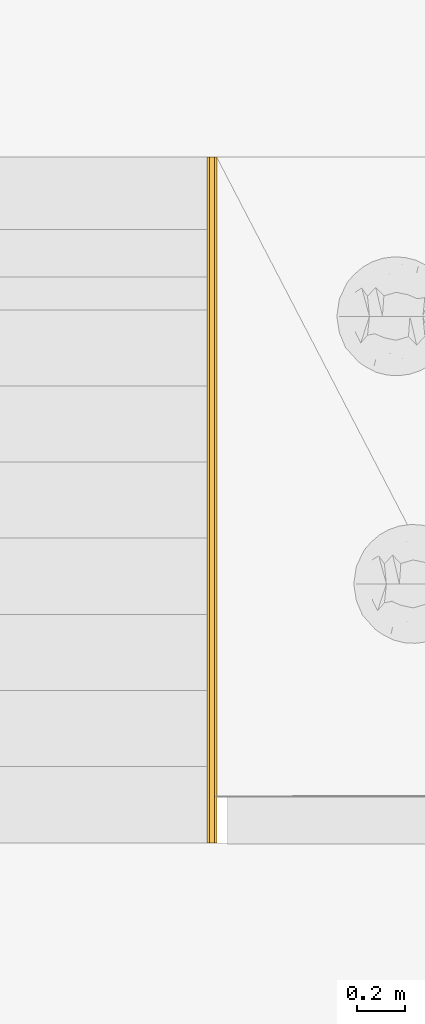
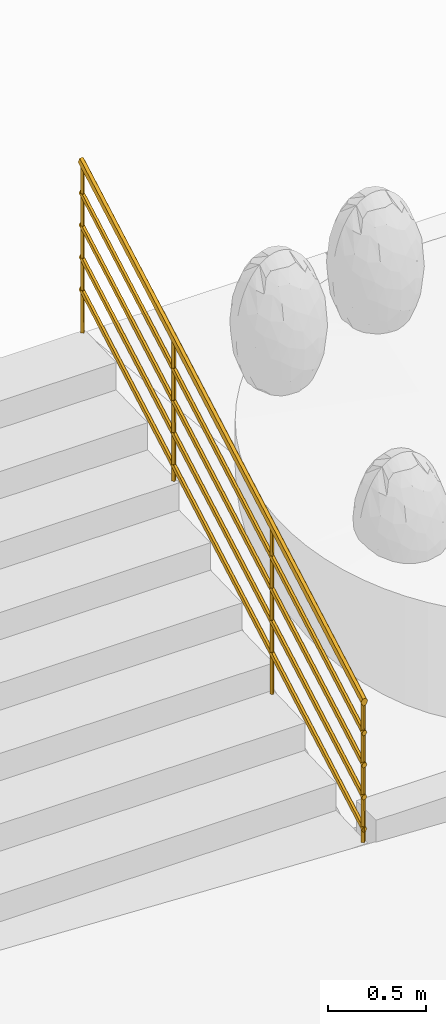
# One storey, part 19 of 23: 1 railing.
"""IFC2X3 building model written with IfcOpenShell, lengths in metres."""

from ifc_helpers import new_model, entity, si_unit, converted_unit, direction, frame, origin, place, context, subcontext, project, spatial, faceted_brep, material, material_list, type_object, element, save


model = new_model("IFC2X3")

# Units and contexts
model_context = context("Model", 3, precision=1e-05, world=origin(), true_north=direction((0.7716245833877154, 0.6360782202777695)))
body_context = subcontext(model_context, "Body", "Model", "MODEL_VIEW")
ifc_project = project(units=[si_unit("LENGTHUNIT", "METRE"), converted_unit("PLANEANGLEUNIT", "DEGREE", entity("IfcPlaneAngleMeasure", 0.017453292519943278), si_unit("PLANEANGLEUNIT", "RADIAN"), dimensions=[0, 0, 0, 0, 0, 0, 0]), si_unit("AREAUNIT", "SQUARE_METRE")], contexts=[model_context])

# Site, building, storey
site_placement = place(None, origin())
site = spatial("IfcSite", under=ifc_project, at=site_placement, Name="Default", CompositionType="ELEMENT")
building_placement = place(site_placement, origin())
building = spatial("IfcBuilding", under=site, at=building_placement, Name="<Building Name>", CompositionType="ELEMENT")
storey_placement = place(building_placement, origin())
storey = spatial("IfcBuildingStorey", under=building, at=storey_placement, Name="00 - HAV", CompositionType="ELEMENT", Elevation=0.0)

# Railing
ifc_material_1 = material(Name="A_Finish_Metal_Steel_Brushed")
ifc_material_2 = material(Name="Lys")
ifc_material_list = material_list([ifc_material_1, ifc_material_2])
railing_type = type_object("IfcRailingType", Name="Railing:900mm Pipe", PredefinedType="NOTDEFINED")
railing_placement = place(storey_placement, frame((247.96155707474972, 46.70337881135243, 31.679294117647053)))
element("IfcRailing", 1, at=railing_placement, inside=storey, type_object=railing_type, material=ifc_material_list, Name="Railing:900mm Pipe", ObjectType="Railing:900mm Pipe", PredefinedType="NOTDEFINED", context=body_context, shape_type="Brep", body=[
    faceted_brep([(0.034095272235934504, 1.942400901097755, 1.0757647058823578), (0.024376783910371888, 1.9545875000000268, 1.953518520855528), (0.034095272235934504, 1.942400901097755, 1.9466904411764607), (0.021595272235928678, 1.954900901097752, 1.0757647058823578), (0.009095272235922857, 1.942400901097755, 1.0757647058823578), (0.009095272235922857, 1.942400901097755, 1.9466904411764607), (0.01881376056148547, 1.9302143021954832, 1.9398623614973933), (0.021595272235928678, 1.9299009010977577, 1.0757647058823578)], [[[0, 1, 2]], [[1, 0, 3]], [[3, 4, 5]], [[3, 5, 1]], [[5, 4, 6]], [[6, 4, 7]], [[7, 0, 2]], [[7, 2, 6]], [[2, 1, 5, 6]], [[3, 0, 7, 4]]]),
    faceted_brep([(0.034095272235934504, 0.942400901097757, 0.3585882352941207), (0.024376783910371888, 0.9545875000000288, 1.3932244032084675), (0.034095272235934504, 0.942400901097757, 1.3863963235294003), (0.021595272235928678, 0.9549009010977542, 0.3585882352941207), (0.009095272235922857, 0.942400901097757, 0.3585882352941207), (0.009095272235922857, 0.942400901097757, 1.3863963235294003), (0.01881376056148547, 0.9302143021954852, 1.379568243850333), (0.021595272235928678, 0.9299009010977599, 0.3585882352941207)], [[[0, 1, 2]], [[1, 0, 3]], [[3, 4, 5]], [[3, 5, 1]], [[5, 4, 6]], [[6, 4, 7]], [[7, 0, 2]], [[7, 2, 6]], [[2, 1, 5, 6]], [[3, 0, 7, 4]]]),
    faceted_brep([(0.034095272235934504, 2.8707143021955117, 1.4343529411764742), (0.024376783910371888, 2.8829009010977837, 2.473647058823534), (0.034095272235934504, 2.8707143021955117, 2.466818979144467), (0.021595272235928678, 2.8832143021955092, 1.4343529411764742), (0.009095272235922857, 2.8707143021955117, 1.4343529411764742), (0.009095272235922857, 2.8707143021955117, 2.466818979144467), (0.01881376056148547, 2.85852770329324, 2.4599908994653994), (0.021595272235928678, 2.8582143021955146, 1.4343529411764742)], [[[0, 1, 2]], [[1, 0, 3]], [[3, 4, 5]], [[3, 5, 1]], [[5, 4, 6]], [[6, 4, 7]], [[7, 0, 2]], [[7, 2, 6]], [[2, 1, 5, 6]], [[3, 0, 7, 4]]]),
    faceted_brep([(0.034095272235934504, 0.014087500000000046, 0.0), (0.024376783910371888, 0.02627409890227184, 0.8730958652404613), (0.034095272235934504, 0.014087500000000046, 0.866267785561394), (0.021595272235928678, 0.026587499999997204, 0.0), (0.009095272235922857, 0.014087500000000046, 0.0), (0.009095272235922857, 0.014087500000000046, 0.866267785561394), (0.01881376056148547, 0.0019009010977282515, 0.8594397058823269), (0.021595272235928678, 0.0015875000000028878, 0.0)], [[[0, 1, 2]], [[1, 0, 3]], [[3, 4, 5]], [[3, 5, 1]], [[5, 4, 6]], [[6, 4, 7]], [[7, 0, 2]], [[7, 2, 6]], [[2, 1, 5, 6]], [[3, 0, 7, 4]]]),
    faceted_brep([(0.034095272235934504, 0.0019009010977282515, 0.8616238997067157), (0.036595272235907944, 0.0019009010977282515, 0.8665873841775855), (0.03909527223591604, 0.0019009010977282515, 0.8715508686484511), (0.04159527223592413, 0.0019009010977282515, 0.876514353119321), (0.03908193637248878, 0.0019009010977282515, 0.881504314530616), (0.03656860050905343, 0.0019009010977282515, 0.8864942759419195), (0.03408193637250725, 0.0019009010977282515, 0.89143128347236), (0.031595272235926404, 0.0019009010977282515, 0.8963682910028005), (0.026595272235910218, 0.0019009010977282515, 0.8963682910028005), (0.021595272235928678, 0.0019009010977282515, 0.8963682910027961), (0.01659527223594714, 0.0019009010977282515, 0.8963682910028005), (0.011595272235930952, 0.0019009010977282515, 0.8963682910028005), (0.009095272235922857, 0.0019009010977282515, 0.8914048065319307), (0.006595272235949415, 0.0019009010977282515, 0.8864413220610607), (0.004108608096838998, 0.0019009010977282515, 0.8815043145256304), (0.0015952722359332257, 0.0019009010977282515, 0.876514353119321), (0.004108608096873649, 0.0019009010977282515, 0.8715243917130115), (0.006595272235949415, 0.0019009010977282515, 0.8665873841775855), (0.009095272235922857, 0.0019009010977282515, 0.8616238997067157), (0.011595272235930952, 0.0019009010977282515, 0.8566604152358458), (0.01659527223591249, 0.0019009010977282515, 0.8566604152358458), (0.021595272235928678, 0.0019009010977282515, 0.8566604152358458), (0.026595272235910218, 0.0019009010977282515, 0.8566604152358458), (0.031595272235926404, 0.0019009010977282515, 0.8566604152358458), (0.011595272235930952, 2.8829009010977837, 2.470867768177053), (0.009108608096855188, 2.8829009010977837, 2.4758047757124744), (0.006621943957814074, 2.8829009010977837, 2.4807417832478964), (0.004108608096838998, 2.8829009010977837, 2.48573174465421), (0.0015952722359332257, 2.8829009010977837, 2.490721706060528), (0.00409527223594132, 2.8829009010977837, 2.495685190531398), (0.006595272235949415, 2.8829009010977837, 2.500648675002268), (0.00909527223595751, 2.8829009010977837, 2.5056121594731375), (0.011595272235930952, 2.8829009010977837, 2.5105756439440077), (0.01659527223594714, 2.8829009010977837, 2.5105756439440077), (0.021595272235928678, 2.8829009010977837, 2.5105756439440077), (0.026595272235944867, 2.8829009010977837, 2.5105756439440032), (0.031595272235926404, 2.8829009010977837, 2.5105756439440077), (0.034095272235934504, 2.8829009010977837, 2.5056121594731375), (0.036595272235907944, 2.8829009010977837, 2.5006486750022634), (0.03908193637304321, 2.8829009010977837, 2.495711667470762), (0.04159527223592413, 2.8829009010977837, 2.490721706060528), (0.03908193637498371, 2.8829009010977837, 2.4857317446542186), (0.036595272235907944, 2.8829009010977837, 2.4807947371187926), (0.03409527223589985, 2.8829009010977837, 2.475831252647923), (0.031595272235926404, 2.8829009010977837, 2.470867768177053), (0.026595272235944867, 2.8829009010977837, 2.470867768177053), (0.021595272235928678, 2.8829009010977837, 2.470867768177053), (0.01659527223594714, 2.8829009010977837, 2.470867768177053)], [[[0, 1, 2, 3, 4, 5, 6, 7, 8, 9, 10, 11, 12, 13, 14, 15, 16, 17, 18, 19, 20, 21, 22, 23]], [[24, 25, 26, 27, 28, 29, 30, 31, 32, 33, 34, 35, 36, 37, 38, 39, 40, 41, 42, 43, 44, 45, 46, 47]], [[19, 18, 17, 16, 15, 28, 27, 26, 25, 24]], [[45, 44, 23, 22, 21, 20, 19, 24, 47, 46]], [[40, 3, 2, 1, 0, 23, 44, 43, 42, 41]], [[33, 32, 11, 10, 9, 8, 7, 36, 35, 34]], [[28, 15, 14, 13, 12, 11, 32, 31, 30, 29]], [[38, 37, 36, 7, 6, 5, 4, 3, 40, 39]]]),
    faceted_brep([(0.02909527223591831, 0.0019009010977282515, 0.8523552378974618), (0.030970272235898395, 0.0019009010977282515, 0.8560778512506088), (0.03284527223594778, 0.0019009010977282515, 0.8598004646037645), (0.034720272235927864, 0.0019009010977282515, 0.8635230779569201), (0.0365952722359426, 0.0019009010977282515, 0.8672456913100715), (0.034961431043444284, 0.0019009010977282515, 0.8704895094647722), (0.033327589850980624, 0.0019009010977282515, 0.8737333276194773), (0.031211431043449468, 0.0019009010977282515, 0.8779347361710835), (0.02909527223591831, 0.0019009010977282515, 0.8821361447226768), (0.025345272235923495, 0.0019009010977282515, 0.8821361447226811), (0.021595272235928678, 0.0019009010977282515, 0.8821361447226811), (0.01784527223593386, 0.0019009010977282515, 0.8821361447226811), (0.014095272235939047, 0.0019009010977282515, 0.8821361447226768), (0.012220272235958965, 0.0019009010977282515, 0.8784135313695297), (0.01034527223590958, 0.0019009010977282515, 0.8746909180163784), (0.008229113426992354, 0.0019009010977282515, 0.8704895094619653), (0.0065952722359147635, 0.0019009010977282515, 0.8672456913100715), (0.008470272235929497, 0.0019009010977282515, 0.8635230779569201), (0.01034527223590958, 0.0019009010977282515, 0.8598004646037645), (0.012220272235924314, 0.0019009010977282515, 0.8560778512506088), (0.014095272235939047, 0.0019009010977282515, 0.8523552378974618), (0.01784527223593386, 0.0019009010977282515, 0.8523552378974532), (0.021595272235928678, 0.0019009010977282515, 0.8523552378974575), (0.025345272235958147, 0.0019009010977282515, 0.8523552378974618), (0.01197911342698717, 2.8829009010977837, 2.4707639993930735), (0.009862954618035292, 2.8829009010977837, 2.474965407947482), (0.008229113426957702, 2.8829009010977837, 2.4782092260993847), (0.0065952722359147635, 2.8829009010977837, 2.4814530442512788), (0.008470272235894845, 2.8829009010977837, 2.48517565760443), (0.01034527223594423, 2.8829009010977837, 2.4888982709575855), (0.012220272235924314, 2.8829009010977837, 2.4926208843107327), (0.014095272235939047, 2.8829009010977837, 2.496343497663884), (0.01784527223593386, 2.8829009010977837, 2.4963434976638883), (0.021595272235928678, 2.8829009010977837, 2.4963434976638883), (0.025345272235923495, 2.8829009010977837, 2.4963434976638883), (0.02909527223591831, 2.8829009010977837, 2.496343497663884), (0.030970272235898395, 2.8829009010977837, 2.4926208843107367), (0.03284527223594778, 2.8829009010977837, 2.4888982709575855), (0.03472027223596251, 2.8829009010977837, 2.48517565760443), (0.0365952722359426, 2.8829009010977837, 2.4814530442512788), (0.034961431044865, 2.8829009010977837, 2.4782092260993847), (0.03284527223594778, 2.8829009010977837, 2.4740078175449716), (0.030970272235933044, 2.8829009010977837, 2.4702852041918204), (0.02909527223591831, 2.8829009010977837, 2.466562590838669), (0.025345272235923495, 2.8829009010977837, 2.4665625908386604), (0.021595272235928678, 2.8829009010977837, 2.466562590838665), (0.017845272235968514, 2.8829009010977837, 2.466562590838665), (0.014095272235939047, 2.8829009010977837, 2.466562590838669)], [[[0, 1, 2, 3, 4, 5, 6, 7, 8, 9, 10, 11, 12, 13, 14, 15, 16, 17, 18, 19, 20, 21, 22, 23]], [[24, 25, 26, 27, 28, 29, 30, 31, 32, 33, 34, 35, 36, 37, 38, 39, 40, 41, 42, 43, 44, 45, 46, 47]], [[18, 17, 16, 27, 26, 25, 24, 47, 20, 19]], [[44, 43, 0, 23, 22, 21, 20, 47, 46, 45]], [[40, 39, 4, 3, 2, 1, 0, 43, 42, 41]], [[6, 5, 4, 39, 38, 37, 36, 35, 8, 7]], [[28, 27, 16, 15, 14, 13, 12, 31, 30, 29]], [[10, 9, 8, 35, 34, 33, 32, 31, 12, 11]]]),
    faceted_brep([(0.02909527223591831, 0.0019009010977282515, 0.6673552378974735), (0.030970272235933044, 0.0019009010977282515, 0.6710778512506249), (0.03284527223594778, 0.0019009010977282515, 0.6748004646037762), (0.034720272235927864, 0.0019009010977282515, 0.6785230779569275), (0.0365952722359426, 0.0019009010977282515, 0.6822456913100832), (0.034961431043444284, 0.0019009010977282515, 0.6854895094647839), (0.033327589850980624, 0.0019009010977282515, 0.6887333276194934), (0.031211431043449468, 0.0019009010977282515, 0.6929347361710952), (0.02909527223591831, 0.0019009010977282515, 0.6971361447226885), (0.025345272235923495, 0.0019009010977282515, 0.6971361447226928), (0.021595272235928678, 0.0019009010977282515, 0.6971361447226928), (0.01784527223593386, 0.0019009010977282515, 0.6971361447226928), (0.014095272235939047, 0.0019009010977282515, 0.6971361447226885), (0.012220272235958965, 0.0019009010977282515, 0.6934135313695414), (0.01034527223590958, 0.0019009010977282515, 0.6896909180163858), (0.008229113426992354, 0.0019009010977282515, 0.6854895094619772), (0.0065952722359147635, 0.0019009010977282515, 0.6822456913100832), (0.008470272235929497, 0.0019009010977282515, 0.6785230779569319), (0.01034527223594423, 0.0019009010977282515, 0.6748004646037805), (0.012220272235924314, 0.0019009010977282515, 0.6710778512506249), (0.014095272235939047, 0.0019009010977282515, 0.6673552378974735), (0.01784527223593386, 0.0019009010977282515, 0.6673552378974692), (0.021595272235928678, 0.0019009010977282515, 0.6673552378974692), (0.025345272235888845, 0.0019009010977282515, 0.6673552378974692), (0.01197911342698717, 2.8829009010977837, 2.285763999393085), (0.009862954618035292, 2.8829009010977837, 2.2899654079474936), (0.008229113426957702, 2.8829009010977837, 2.293209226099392), (0.0065952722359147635, 2.8829009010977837, 2.2964530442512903), (0.008470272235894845, 2.8829009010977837, 2.3001756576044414), (0.01034527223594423, 2.8829009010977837, 2.303898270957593), (0.012220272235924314, 2.8829009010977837, 2.307620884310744), (0.014095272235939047, 2.8829009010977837, 2.311343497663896), (0.01784527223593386, 2.8829009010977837, 2.3113434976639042), (0.021595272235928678, 2.8829009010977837, 2.3113434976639), (0.025345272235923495, 2.8829009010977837, 2.3113434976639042), (0.02909527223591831, 2.8829009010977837, 2.311343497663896), (0.030970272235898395, 2.8829009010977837, 2.3076208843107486), (0.03284527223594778, 2.8829009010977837, 2.303898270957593), (0.03472027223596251, 2.8829009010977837, 2.300175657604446), (0.0365952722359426, 2.8829009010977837, 2.2964530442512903), (0.034961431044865, 2.8829009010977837, 2.293209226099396), (0.03284527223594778, 2.8829009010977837, 2.2890078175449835), (0.030970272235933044, 2.8829009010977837, 2.285285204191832), (0.02909527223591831, 2.8829009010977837, 2.2815625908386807), (0.025345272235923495, 2.8829009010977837, 2.2815625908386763), (0.021595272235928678, 2.8829009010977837, 2.2815625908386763), (0.017845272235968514, 2.8829009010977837, 2.2815625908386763), (0.014095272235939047, 2.8829009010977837, 2.2815625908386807)], [[[0, 1, 2, 3, 4, 5, 6, 7, 8, 9, 10, 11, 12, 13, 14, 15, 16, 17, 18, 19, 20, 21, 22, 23]], [[24, 25, 26, 27, 28, 29, 30, 31, 32, 33, 34, 35, 36, 37, 38, 39, 40, 41, 42, 43, 44, 45, 46, 47]], [[18, 17, 16, 27, 26, 25, 24, 47, 20, 19]], [[44, 43, 0, 23, 22, 21, 20, 47, 46, 45]], [[40, 39, 4, 3, 2, 1, 0, 43, 42, 41]], [[6, 5, 4, 39, 38, 37, 36, 35, 8, 7]], [[28, 27, 16, 15, 14, 13, 12, 31, 30, 29]], [[10, 9, 8, 35, 34, 33, 32, 31, 12, 11]]]),
    faceted_brep([(0.02909527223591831, 0.0019009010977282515, 0.467355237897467), (0.030970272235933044, 0.0019009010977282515, 0.47107785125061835), (0.03284527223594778, 0.0019009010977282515, 0.4748004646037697), (0.034720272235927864, 0.0019009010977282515, 0.478523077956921), (0.0365952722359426, 0.0019009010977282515, 0.48224569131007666), (0.034961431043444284, 0.0019009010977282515, 0.48548950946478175), (0.033327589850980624, 0.0019009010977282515, 0.48873332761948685), (0.031211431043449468, 0.0019009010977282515, 0.49293473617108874), (0.02909527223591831, 0.0019009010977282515, 0.49713614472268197), (0.025345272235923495, 0.0019009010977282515, 0.4971361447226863), (0.021595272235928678, 0.0019009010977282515, 0.4971361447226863), (0.01784527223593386, 0.0019009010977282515, 0.4971361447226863), (0.014095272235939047, 0.0019009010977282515, 0.49713614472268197), (0.012220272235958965, 0.0019009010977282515, 0.493413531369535), (0.01034527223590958, 0.0019009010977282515, 0.4896909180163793), (0.008229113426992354, 0.0019009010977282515, 0.4854895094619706), (0.0065952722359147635, 0.0019009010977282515, 0.48224569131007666), (0.008470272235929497, 0.0019009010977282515, 0.47852307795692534), (0.01034527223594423, 0.0019009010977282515, 0.474800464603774), (0.012220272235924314, 0.0019009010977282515, 0.47107785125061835), (0.014095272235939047, 0.0019009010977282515, 0.467355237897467), (0.01784527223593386, 0.0019009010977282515, 0.4673552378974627), (0.021595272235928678, 0.0019009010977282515, 0.4673552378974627), (0.025345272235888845, 0.0019009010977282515, 0.4673552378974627), (0.01197911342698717, 2.8829009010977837, 2.0857639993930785), (0.009862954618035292, 2.8829009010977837, 2.089965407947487), (0.008229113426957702, 2.8829009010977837, 2.0932092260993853), (0.0065952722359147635, 2.8829009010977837, 2.096453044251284), (0.008470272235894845, 2.8829009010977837, 2.100175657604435), (0.01034527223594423, 2.8829009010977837, 2.1038982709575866), (0.012220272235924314, 2.8829009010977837, 2.107620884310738), (0.014095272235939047, 2.8829009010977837, 2.111343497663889), (0.01784527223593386, 2.8829009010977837, 2.111343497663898), (0.021595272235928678, 2.8829009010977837, 2.1113434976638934), (0.025345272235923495, 2.8829009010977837, 2.111343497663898), (0.02909527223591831, 2.8829009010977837, 2.111343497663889), (0.030970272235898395, 2.8829009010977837, 2.1076208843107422), (0.03284527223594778, 2.8829009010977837, 2.1038982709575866), (0.03472027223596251, 2.8829009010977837, 2.1001756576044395), (0.0365952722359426, 2.8829009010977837, 2.096453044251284), (0.034961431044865, 2.8829009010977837, 2.0932092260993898), (0.03284527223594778, 2.8829009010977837, 2.0890078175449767), (0.030970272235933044, 2.8829009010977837, 2.0852852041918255), (0.02909527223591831, 2.8829009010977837, 2.0815625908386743), (0.025345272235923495, 2.8829009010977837, 2.08156259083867), (0.021595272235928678, 2.8829009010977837, 2.08156259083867), (0.017845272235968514, 2.8829009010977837, 2.08156259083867), (0.014095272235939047, 2.8829009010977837, 2.0815625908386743)], [[[0, 1, 2, 3, 4, 5, 6, 7, 8, 9, 10, 11, 12, 13, 14, 15, 16, 17, 18, 19, 20, 21, 22, 23]], [[24, 25, 26, 27, 28, 29, 30, 31, 32, 33, 34, 35, 36, 37, 38, 39, 40, 41, 42, 43, 44, 45, 46, 47]], [[18, 17, 16, 27, 26, 25, 24, 47, 20, 19]], [[44, 43, 0, 23, 22, 21, 20, 47, 46, 45]], [[40, 39, 4, 3, 2, 1, 0, 43, 42, 41]], [[6, 5, 4, 39, 38, 37, 36, 35, 8, 7]], [[28, 27, 16, 15, 14, 13, 12, 31, 30, 29]], [[10, 9, 8, 35, 34, 33, 32, 31, 12, 11]]]),
    faceted_brep([(0.02909527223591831, 0.0019009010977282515, 0.2673552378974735), (0.030970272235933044, 0.0019009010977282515, 0.2710778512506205), (0.03284527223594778, 0.0019009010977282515, 0.27480046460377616), (0.034720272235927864, 0.0019009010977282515, 0.2785230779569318), (0.0365952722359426, 0.0019009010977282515, 0.28224569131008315), (0.034961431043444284, 0.0019009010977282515, 0.2854895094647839), (0.033327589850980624, 0.0019009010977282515, 0.28873332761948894), (0.031211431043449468, 0.0019009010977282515, 0.2929347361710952), (0.02909527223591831, 0.0019009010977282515, 0.29713614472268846), (0.025345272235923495, 0.0019009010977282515, 0.2971361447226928), (0.021595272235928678, 0.0019009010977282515, 0.2971361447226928), (0.01784527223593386, 0.0019009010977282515, 0.2971361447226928), (0.014095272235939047, 0.0019009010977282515, 0.29713614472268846), (0.012220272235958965, 0.0019009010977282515, 0.29341353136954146), (0.01034527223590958, 0.0019009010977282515, 0.28969091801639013), (0.008229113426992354, 0.0019009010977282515, 0.2854895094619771), (0.0065952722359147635, 0.0019009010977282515, 0.28224569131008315), (0.008470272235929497, 0.0019009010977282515, 0.2785230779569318), (0.01034527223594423, 0.0019009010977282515, 0.27480046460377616), (0.012220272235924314, 0.0019009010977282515, 0.2710778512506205), (0.014095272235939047, 0.0019009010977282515, 0.2673552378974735), (0.01784527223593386, 0.0019009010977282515, 0.2673552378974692), (0.021595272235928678, 0.0019009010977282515, 0.2673552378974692), (0.025345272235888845, 0.0019009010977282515, 0.26735523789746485), (0.01197911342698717, 2.8829009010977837, 1.885763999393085), (0.009862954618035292, 2.8829009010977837, 1.8899654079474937), (0.008229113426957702, 2.8829009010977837, 1.893209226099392), (0.0065952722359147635, 2.8829009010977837, 1.8964530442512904), (0.008470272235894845, 2.8829009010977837, 1.9001756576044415), (0.01034527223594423, 2.8829009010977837, 1.9038982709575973), (0.012220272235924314, 2.8829009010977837, 1.9076208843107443), (0.014095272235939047, 2.8829009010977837, 1.9113434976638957), (0.01784527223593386, 2.8829009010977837, 1.9113434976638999), (0.021595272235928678, 2.8829009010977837, 1.9113434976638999), (0.025345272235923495, 2.8829009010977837, 1.9113434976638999), (0.02909527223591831, 2.8829009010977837, 1.9113434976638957), (0.030970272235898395, 2.8829009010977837, 1.9076208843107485), (0.03284527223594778, 2.8829009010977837, 1.9038982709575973), (0.03472027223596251, 2.8829009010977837, 1.9001756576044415), (0.0365952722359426, 2.8829009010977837, 1.8964530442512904), (0.034961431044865, 2.8829009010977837, 1.8932092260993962), (0.03284527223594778, 2.8829009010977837, 1.8890078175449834), (0.030970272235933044, 2.8829009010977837, 1.885285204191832), (0.02909527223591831, 2.8829009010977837, 1.8815625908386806), (0.025345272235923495, 2.8829009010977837, 1.8815625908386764), (0.021595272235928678, 2.8829009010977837, 1.8815625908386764), (0.017845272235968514, 2.8829009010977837, 1.8815625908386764), (0.014095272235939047, 2.8829009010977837, 1.8815625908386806)], [[[0, 1, 2, 3, 4, 5, 6, 7, 8, 9, 10, 11, 12, 13, 14, 15, 16, 17, 18, 19, 20, 21, 22, 23]], [[24, 25, 26, 27, 28, 29, 30, 31, 32, 33, 34, 35, 36, 37, 38, 39, 40, 41, 42, 43, 44, 45, 46, 47]], [[18, 17, 16, 27, 26, 25, 24, 47, 20, 19]], [[44, 43, 0, 23, 22, 21, 20, 47, 46, 45]], [[40, 39, 4, 3, 2, 1, 0, 43, 42, 41]], [[6, 5, 4, 39, 38, 37, 36, 35, 8, 7]], [[28, 27, 16, 15, 14, 13, 12, 31, 30, 29]], [[10, 9, 8, 35, 34, 33, 32, 31, 12, 11]]]),
    faceted_brep([(0.02909527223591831, 0.0019009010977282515, 0.06735523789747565), (0.030970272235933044, 0.0019009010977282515, 0.07107785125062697), (0.03284527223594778, 0.0019009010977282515, 0.0748004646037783), (0.034720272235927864, 0.0019009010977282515, 0.07852307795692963), (0.0365952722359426, 0.0019009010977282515, 0.08224569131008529), (0.034961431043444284, 0.0019009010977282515, 0.08548950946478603), (0.033327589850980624, 0.0019009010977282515, 0.08873332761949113), (0.031211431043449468, 0.0019009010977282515, 0.09293473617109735), (0.02909527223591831, 0.0019009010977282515, 0.0971361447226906), (0.025345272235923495, 0.0019009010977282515, 0.09713614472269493), (0.021595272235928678, 0.0019009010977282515, 0.09713614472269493), (0.01784527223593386, 0.0019009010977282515, 0.09713614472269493), (0.014095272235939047, 0.0019009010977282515, 0.0971361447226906), (0.012220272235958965, 0.0019009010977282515, 0.0934135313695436), (0.01034527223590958, 0.0019009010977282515, 0.08969091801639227), (0.008229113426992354, 0.0019009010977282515, 0.08548950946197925), (0.0065952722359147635, 0.0019009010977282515, 0.08224569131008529), (0.008470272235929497, 0.0019009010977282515, 0.07852307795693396), (0.01034527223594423, 0.0019009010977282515, 0.0748004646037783), (0.012220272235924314, 0.0019009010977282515, 0.07107785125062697), (0.014095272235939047, 0.0019009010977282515, 0.06735523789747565), (0.01784527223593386, 0.0019009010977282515, 0.06735523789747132), (0.021595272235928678, 0.0019009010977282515, 0.06735523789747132), (0.025345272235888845, 0.0019009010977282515, 0.06735523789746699), (0.01197911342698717, 2.8829009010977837, 1.685763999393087), (0.009862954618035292, 2.8829009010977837, 1.6899654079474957), (0.008229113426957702, 2.8829009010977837, 1.693209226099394), (0.0065952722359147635, 2.8829009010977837, 1.6964530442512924), (0.008470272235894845, 2.8829009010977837, 1.7001756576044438), (0.01034527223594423, 2.8829009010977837, 1.7038982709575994), (0.012220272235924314, 2.8829009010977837, 1.7076208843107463), (0.014095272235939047, 2.8829009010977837, 1.7113434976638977), (0.01784527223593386, 2.8829009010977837, 1.7113434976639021), (0.021595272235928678, 2.8829009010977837, 1.7113434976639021), (0.025345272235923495, 2.8829009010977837, 1.7113434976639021), (0.02909527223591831, 2.8829009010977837, 1.7113434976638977), (0.030970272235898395, 2.8829009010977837, 1.7076208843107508), (0.03284527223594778, 2.8829009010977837, 1.7038982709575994), (0.03472027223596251, 2.8829009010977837, 1.700175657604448), (0.0365952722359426, 2.8829009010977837, 1.6964530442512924), (0.034961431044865, 2.8829009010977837, 1.6932092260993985), (0.03284527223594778, 2.8829009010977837, 1.6890078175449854), (0.030970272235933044, 2.8829009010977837, 1.685285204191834), (0.02909527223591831, 2.8829009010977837, 1.6815625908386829), (0.025345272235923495, 2.8829009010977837, 1.6815625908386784), (0.021595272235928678, 2.8829009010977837, 1.6815625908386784), (0.017845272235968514, 2.8829009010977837, 1.6815625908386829), (0.014095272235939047, 2.8829009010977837, 1.6815625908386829)], [[[0, 1, 2, 3, 4, 5, 6, 7, 8, 9, 10, 11, 12, 13, 14, 15, 16, 17, 18, 19, 20, 21, 22, 23]], [[24, 25, 26, 27, 28, 29, 30, 31, 32, 33, 34, 35, 36, 37, 38, 39, 40, 41, 42, 43, 44, 45, 46, 47]], [[18, 17, 16, 27, 26, 25, 24, 47, 20, 19]], [[44, 43, 0, 23, 22, 21, 20, 47, 46, 45]], [[40, 39, 4, 3, 2, 1, 0, 43, 42, 41]], [[6, 5, 4, 39, 38, 37, 36, 35, 8, 7]], [[28, 27, 16, 15, 14, 13, 12, 31, 30, 29]], [[10, 9, 8, 35, 34, 33, 32, 31, 12, 11]]]),
])

save(model, "model.ifc")
